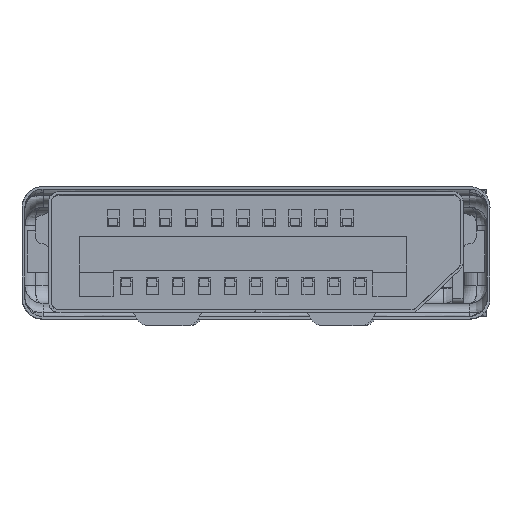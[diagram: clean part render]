
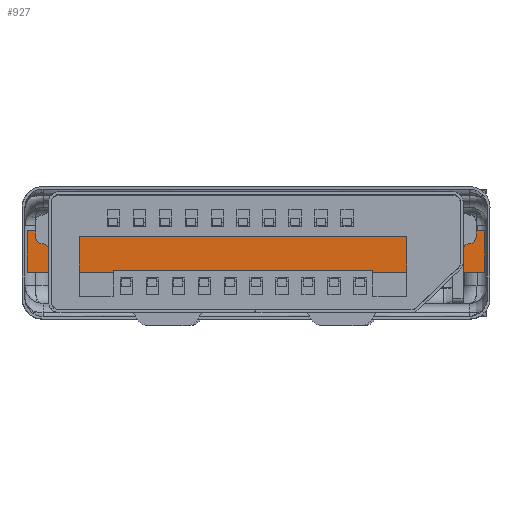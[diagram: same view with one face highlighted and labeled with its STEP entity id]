
A CAD part, front view. The second image highlights one B-rep face of the part: STEP entity #927.
In plain terms, the highlighted planar face has unit normal (0, -1, 0).
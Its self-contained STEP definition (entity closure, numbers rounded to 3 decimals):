
#69 = EDGE_CURVE('',#70,#72,#74,.T.);
#70 = VERTEX_POINT('',#71);
#71 = CARTESIAN_POINT('',(-8.807,-45.703,0.));
#72 = VERTEX_POINT('',#73);
#73 = CARTESIAN_POINT('',(-8.807,-45.703,1.6));
#74 = LINE('',#75,#76);
#75 = CARTESIAN_POINT('',(-8.807,-45.703,0.));
#76 = VECTOR('',#77,1.);
#77 = DIRECTION('',(0.,0.,1.));
#902 = VERTEX_POINT('',#903);
#903 = CARTESIAN_POINT('',(8.8,-45.71,1.6));
#909 = EDGE_CURVE('',#910,#902,#912,.T.);
#910 = VERTEX_POINT('',#911);
#911 = CARTESIAN_POINT('',(8.8,-45.71,0.));
#912 = LINE('',#913,#914);
#913 = CARTESIAN_POINT('',(8.8,-45.71,0.));
#914 = VECTOR('',#915,1.);
#915 = DIRECTION('',(0.,0.,1.));
#927 = ADVANCED_FACE('',(#928),#944,.T.);
#928 = FACE_BOUND('',#929,.T.);
#929 = EDGE_LOOP('',(#930,#931,#937,#938));
#930 = ORIENTED_EDGE('',*,*,#909,.T.);
#931 = ORIENTED_EDGE('',*,*,#932,.T.);
#932 = EDGE_CURVE('',#902,#72,#933,.T.);
#933 = LINE('',#934,#935);
#934 = CARTESIAN_POINT('',(8.8,-45.71,1.6));
#935 = VECTOR('',#936,1.);
#936 = DIRECTION('',(-1.,0.,0.));
#937 = ORIENTED_EDGE('',*,*,#69,.F.);
#938 = ORIENTED_EDGE('',*,*,#939,.F.);
#939 = EDGE_CURVE('',#910,#70,#940,.T.);
#940 = LINE('',#941,#942);
#941 = CARTESIAN_POINT('',(8.8,-45.71,0.));
#942 = VECTOR('',#943,1.);
#943 = DIRECTION('',(-1.,0.,0.));
#944 = PLANE('',#945);
#945 = AXIS2_PLACEMENT_3D('',#946,#947,#948);
#946 = CARTESIAN_POINT('',(8.8,-45.71,0.));
#947 = DIRECTION('',(0.,-1.,0.));
#948 = DIRECTION('',(-1.,0.,0.));
